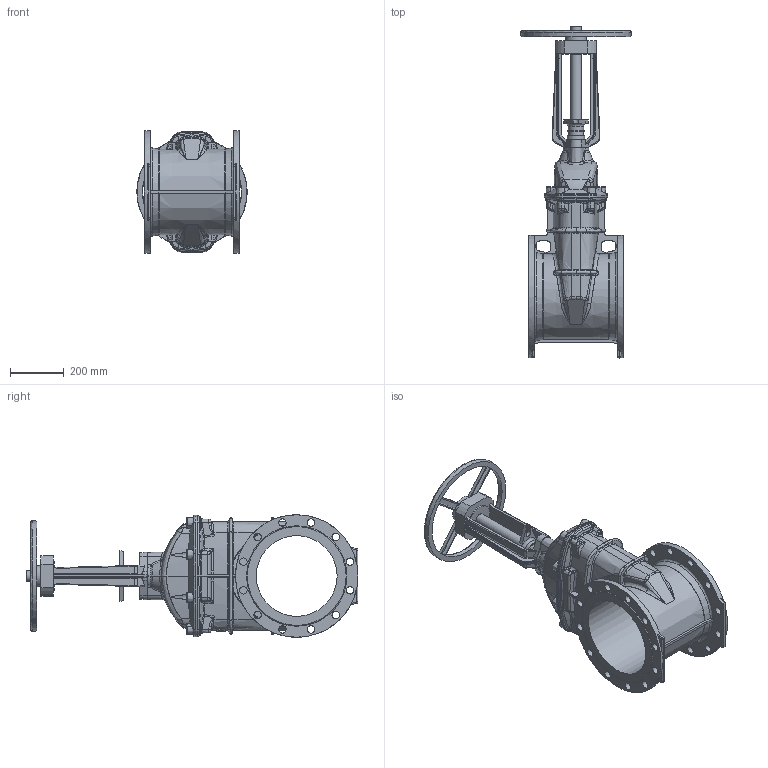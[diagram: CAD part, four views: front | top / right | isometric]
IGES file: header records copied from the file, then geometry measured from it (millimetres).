
Start section: SolidWorks IGES file using analytic representation for surfaces
Global section: file name: \\avksan2\techshare\PBM outline export from Enovia\O_21_34_DN300_41XXXXX close_AA0.igs; native system: SolidWorks 2012; preprocessor: SolidWorks 2012; author: pbm; date: 200212.103935; units: millimetre
Bounding box: 409.98 x 1233.07 x 455 mm (x, y, z)
Surface area: 2041881.1 mm2 (no closed solid volume)
Topology: 0 solids, 0 shells, 1132 faces, 6420 edges, 6320 vertices
Faces by surface type: bspline 634, revolution 498
